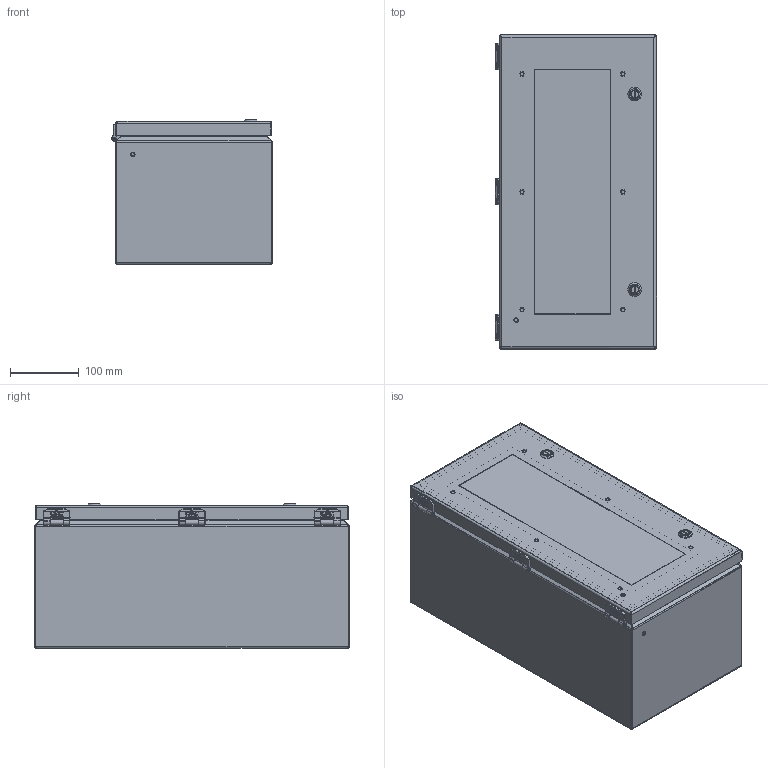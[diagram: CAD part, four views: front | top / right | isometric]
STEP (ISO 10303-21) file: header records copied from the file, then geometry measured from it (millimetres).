
FILE_DESCRIPTION((''),'2;1');
FILE_NAME('MODEL-097_ASM','2018-06-04T15:55:52',('joshi'),('SAGINAW CONTROL & ENGINEERING'),'CREO PARAMETRIC BY PTC INC, 2017260','CREO PARAMETRIC BY PTC INC, 2017260','');
FILE_SCHEMA(('AUTOMOTIVE_DESIGN { 1 0 10303 214 1 1 1 1 }'));
Length unit declared in the file: inch
Products named in the file (29): MODEL-097-BDY; 112643-BOX; 112643-DOOR; 112643-PIN; 112643-STUD; 112643_ASM; 113151; 100928; 113152; 113153_ASM; MODEL-097-DR; 100097; 100012; 112987_SHAFT; 112987_INSERT; 112984; 112987_SCREW; 112987_NUT; 112987_ASM; MODEL-097-LEX; 118622; 117899; 118662; MODEL-097-GSKT; 120704; CH-ELJ_SUBPANEL; 102479; CH-ELJ_SUBPANEL-SUBASSEMBLY_ASM; MODEL-097_ASM
Assembly tree (57 placements, depth 4):
  MODEL-097_ASM
    MODEL-097-BDY
    113153_ASM  x3
      112643_ASM
        112643-BOX
        112643-DOOR
        112643-PIN
        112643-STUD
      113151
      100928
      113152
    MODEL-097-DR
    100097  x2
    100012  x6
    112987_ASM  x2
      112987_SHAFT
      112987_INSERT
      112984
      112987_SCREW
      112987_NUT
    MODEL-097-LEX
    118622  x6
    117899  x6
    118662  x6
    MODEL-097-GSKT
    120704
    CH-ELJ_SUBPANEL-SUBASSEMBLY_ASM
      CH-ELJ_SUBPANEL
      102479  x6
Bounding box: 234.18 x 457.3 x 210.72 mm (x, y, z)
Volume: 1267886.2 mm3; surface area: 1308141.9 mm2
Topology: 70 solids, 70 shells, 3986 faces, 10122 edges, 6132 vertices
Faces by surface type: plane 1640, cylinder 1090, bspline 811, cone 195, torus 160, sphere 90
Entity records: 91186 total; most frequent: CARTESIAN_POINT 37613, ORIENTED_EDGE 7666, DIRECTION 6820, EDGE_CURVE 3833, PRESENTATION_STYLE_ASSIGNMENT 3812, STYLED_ITEM 3749, CURVE_STYLE 3669, AXIS2_PLACEMENT_3D 2526
